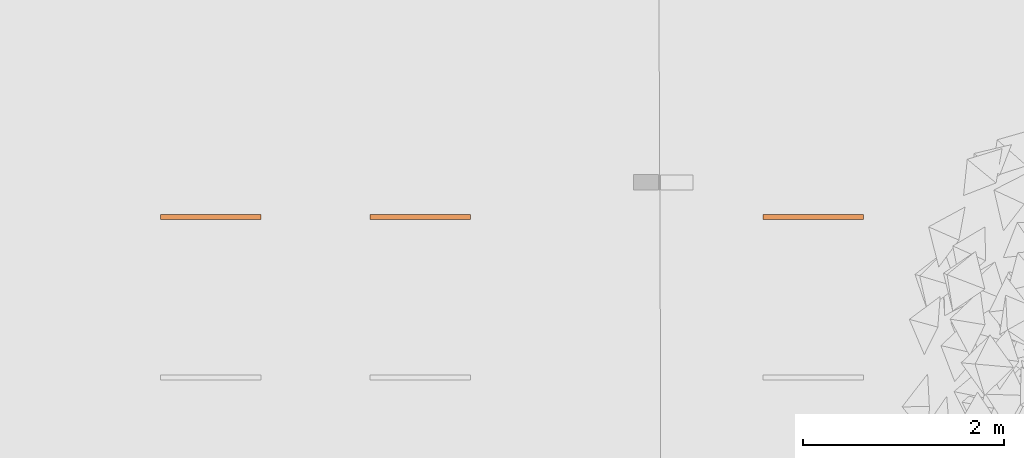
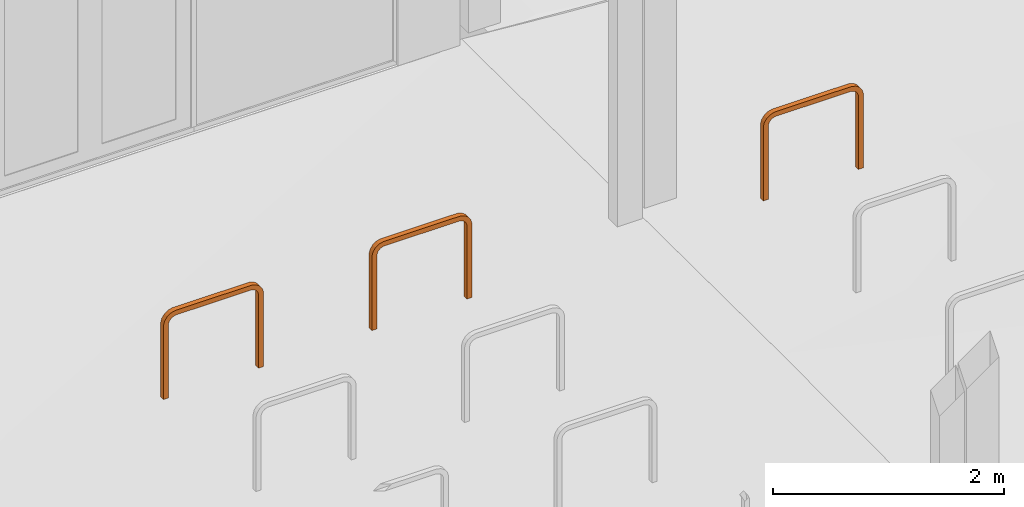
# One storey, part 45 of 69: 3 proxies.
"""IFC2X3 building model written with IfcOpenShell, lengths in millimetres."""

from ifc_helpers import new_model, entity, si_unit, converted_unit, derived_unit, money_unit, direction, frame, origin_with_axes, place, context, subcontext, project, spatial, faceted_brep, source, transform, mapped, material, type_object, element, save


model = new_model("IFC2X3")

# Units and contexts
model_context = context("Model", 3, precision=0.01, world=origin_with_axes(), true_north=direction((0.0, 1.0)))
body_context = subcontext(model_context, "Body", "Model", "MODEL_VIEW")
ifc_project = project(units=[si_unit("LENGTHUNIT", "METRE", prefix="MILLI"), si_unit("AREAUNIT", "SQUARE_METRE"), si_unit("VOLUMEUNIT", "CUBIC_METRE"), converted_unit("PLANEANGLEUNIT", "DEGREE", entity("IfcPlaneAngleMeasure", 0.0174532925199), si_unit("PLANEANGLEUNIT", "RADIAN"), dimensions=[0, 0, 0, 0, 0, 0, 0]), si_unit("SOLIDANGLEUNIT", "STERADIAN"), money_unit("EUR"), converted_unit("TIMEUNIT", "Year", entity("IfcTimeMeasure", 31556926.0), si_unit("TIMEUNIT", "SECOND"), dimensions=[0, 0, 1, 0, 0, 0, 0]), si_unit("MASSUNIT", "GRAM", prefix="KILO"), si_unit("THERMODYNAMICTEMPERATUREUNIT", "DEGREE_CELSIUS"), si_unit("LUMINOUSINTENSITYUNIT", "LUMEN"), si_unit("ENERGYUNIT", "JOULE", prefix="MEGA"), derived_unit("THERMALCONDUCTANCEUNIT", [(si_unit("POWERUNIT", "WATT"), 1), (si_unit("LENGTHUNIT", "METRE"), -1), (si_unit("THERMODYNAMICTEMPERATUREUNIT", "KELVIN"), -1)]), derived_unit("SPECIFICHEATCAPACITYUNIT", [(si_unit("ENERGYUNIT", "JOULE"), 1), (si_unit("MASSUNIT", "GRAM", prefix="KILO"), -1), (si_unit("THERMODYNAMICTEMPERATUREUNIT", "KELVIN"), -1)]), derived_unit("MASSDENSITYUNIT", [(si_unit("MASSUNIT", "GRAM", prefix="KILO"), 1), (si_unit("VOLUMEUNIT", "CUBIC_METRE"), -1)])], contexts=[model_context])

# Site, building, storey
site_placement = place(None, origin_with_axes())
site = spatial("IfcSite", under=ifc_project, at=site_placement, Name="Puškini 31, Narva", CompositionType="ELEMENT")
building_placement = place(site_placement, origin_with_axes())
building = spatial("IfcBuilding", under=site, at=building_placement, Name="Narva Riigigümnaasium", CompositionType="ELEMENT")
storey_placement = place(building_placement, origin_with_axes())
storey = spatial("IfcBuildingStorey", under=building, at=storey_placement, Name="1.korrus 0.00", CompositionType="ELEMENT", Elevation=0.0)

# Proxies
ifc_material = material(Name="Must teras")
building_element_proxy_type = type_object("IfcBuildingElementProxyType", Name="Extery kaar 1000 1000 x 900", PredefinedType="NOTDEFINED")
shared_shape = source(origin_with_axes(), body_context, "Body", "Brep", [
    faceted_brep([(50.0000012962, -117.382138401, 900.0), (50.0000012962, -74.104717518, 888.328428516), (0.0, -74.104717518, 888.328428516), (0.0, -117.382138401, 900.0), (50.0000012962, -882.617861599, 900.0), (50.0000012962, -925.895282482, 888.328428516), (50.0000012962, -962.598743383, 862.598743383), (50.0000012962, -988.328428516, 825.895282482), (50.0000012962, -1000.0, 782.617861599), (50.0000012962, -1000.0, 0.0), (50.0000012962, -950.0, 0.0), (50.0000012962, -950.0, 780.108170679), (50.0000012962, -938.309844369, 813.375909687), (50.0000012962, -913.375909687, 838.309844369), (50.0000012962, -880.108170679, 850.0), (50.0000012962, -119.891829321, 850.0), (50.0000012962, -86.6240903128, 838.309844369), (50.0000012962, -61.6901556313, 813.375909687), (50.0000012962, -50.0, 780.108170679), (50.0000012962, -50.0, 0.0), (50.0000012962, 0.0, 0.0), (50.0000012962, 0.0, 782.617861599), (50.0000012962, -11.6715714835, 825.895282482), (50.0000012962, -37.4012566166, 862.598743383), (0.0, -37.4012566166, 862.598743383), (0.0, -11.6715714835, 825.895282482), (0.0, 0.0, 782.617861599), (0.0, 0.0, 0.0), (0.0, -50.0, 0.0), (0.0, -50.0, 780.108170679), (0.0, -61.6901556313, 813.375909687), (0.0, -86.6240903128, 838.309844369), (0.0, -119.891829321, 850.0), (0.0, -880.108170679, 850.0), (0.0, -913.375909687, 838.309844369), (0.0, -938.309844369, 813.375909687), (0.0, -950.0, 780.108170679), (0.0, -950.0, 0.0), (0.0, -1000.0, 0.0), (0.0, -1000.0, 782.617861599), (0.0, -988.328428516, 825.895282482), (0.0, -962.598743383, 862.598743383), (0.0, -925.895282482, 888.328428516), (0.0, -882.617861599, 900.0)], [[[0, 1, 2, 3]], [[0, 4, 5, 6, 7, 8, 9, 10, 11, 12, 13, 14, 15, 16, 17, 18, 19, 20, 21, 22, 23, 1]], [[1, 23, 24, 2]], [[3, 2, 24, 25, 26, 27, 28, 29, 30, 31, 32, 33, 34, 35, 36, 37, 38, 39, 40, 41, 42, 43]], [[4, 0, 3, 43]], [[5, 4, 43, 42]], [[6, 5, 42, 41]], [[7, 6, 41, 40]], [[8, 7, 40, 39]], [[9, 8, 39, 38]], [[10, 9, 38, 37]], [[11, 10, 37, 36]], [[12, 11, 36, 35]], [[13, 12, 35, 34]], [[14, 13, 34, 33]], [[15, 14, 33, 32]], [[16, 15, 32, 31]], [[17, 16, 31, 30]], [[18, 17, 30, 29]], [[19, 18, 29, 28]], [[20, 19, 28, 27]], [[21, 20, 27, 26]], [[22, 21, 26, 25]], [[23, 22, 25, 24]]]),
])
for number, where, z_axis, x_axis, name in (
    (1, (49509.999999, 146556.882501, 0.0), (0.0, 0.0, 1.0), (1.73167787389e-08, 1.0, 0.0), "Extery kaar 1001"),
    (2, (51590.1587432, 146556.883154, 0.0), (0.0, 0.0, 1.0), (1.73167787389e-08, 1.0, 0.0), "Extery kaar 1001"),
    (3, (55498.591574, 146556.883154, 0.0), (0.0, 0.0, 1.0), (1.73167787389e-08, 1.0, 0.0), "Extery kaar 1001"),
):
    element("IfcBuildingElementProxy", number, at=place(storey_placement, frame(where, z_axis=z_axis, x_axis=x_axis)), inside=storey, type_object=building_element_proxy_type, material=ifc_material, Name=name, context=body_context, shape_type="MappedRepresentation", body=[
        mapped(shared_shape, transform((0.0, 0.0, 0.0))),
    ])

save(model, "model.ifc")
